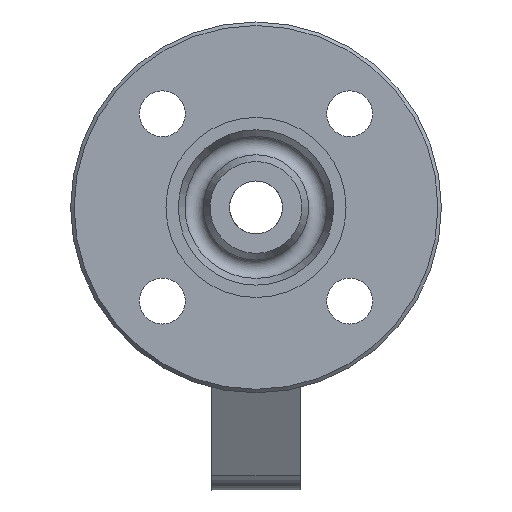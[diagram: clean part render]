
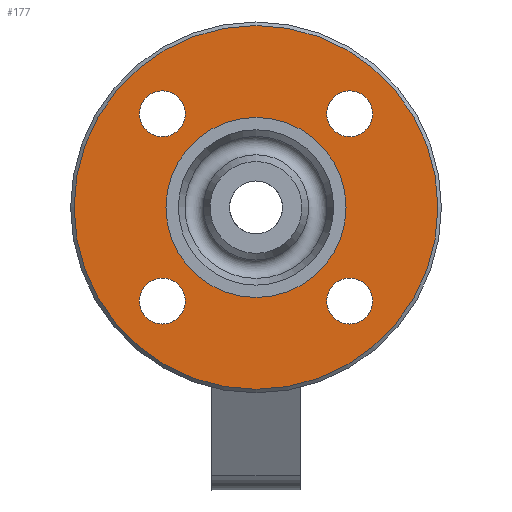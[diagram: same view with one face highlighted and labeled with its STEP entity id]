
A CAD part, left-side view. The second image highlights one B-rep face of the part: STEP entity #177.
In plain terms, the highlighted planar face has unit normal (-1, 0, 0).
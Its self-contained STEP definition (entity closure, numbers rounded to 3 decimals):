
#177=ADVANCED_FACE('',(#1434,#1436,#1438,#1440,#1442,#1444),#1446,.T.);
#1434=FACE_BOUND('',#1435,.T.);
#1435=EDGE_LOOP('',(#2306));
#1436=FACE_BOUND('',#1437,.T.);
#1437=EDGE_LOOP('',(#2307));
#1438=FACE_BOUND('',#1439,.T.);
#1439=EDGE_LOOP('',(#2308));
#1440=FACE_BOUND('',#1441,.T.);
#1441=EDGE_LOOP('',(#2309));
#1442=FACE_BOUND('',#1443,.T.);
#1443=EDGE_LOOP('',(#2310));
#1444=FACE_OUTER_BOUND('',#1445,.T.);
#1445=EDGE_LOOP('',(#2311));
#1446=PLANE('',#1447);
#1447=AXIS2_PLACEMENT_3D('',#1448,#1449,#1450);
#1448=CARTESIAN_POINT('',(-62.,0.,0.));
#1449=DIRECTION('',(-1.,0.,0.));
#1450=DIRECTION('',(0.,1.,0.));
#2306=ORIENTED_EDGE('',*,*,#3244,.T.);
#2307=ORIENTED_EDGE('',*,*,#3243,.T.);
#2308=ORIENTED_EDGE('',*,*,#3241,.T.);
#2309=ORIENTED_EDGE('',*,*,#3239,.T.);
#2310=ORIENTED_EDGE('',*,*,#3261,.T.);
#2311=ORIENTED_EDGE('',*,*,#3262,.F.);
#3239=EDGE_CURVE('',#3612,#3612,#3614,.F.);
#3241=EDGE_CURVE('',#3615,#3615,#3617,.F.);
#3243=EDGE_CURVE('',#3618,#3618,#3620,.F.);
#3244=EDGE_CURVE('',#3621,#3621,#3622,.F.);
#3261=EDGE_CURVE('',#3652,#3652,#3653,.T.);
#3262=EDGE_CURVE('',#3654,#3654,#3655,.T.);
#3612=VERTEX_POINT('',#5528);
#3614=CIRCLE('',#5532,6.5);
#3615=VERTEX_POINT('',#5536);
#3617=CIRCLE('',#5540,6.5);
#3618=VERTEX_POINT('',#5544);
#3620=CIRCLE('',#5548,6.5);
#3621=VERTEX_POINT('',#5552);
#3622=CIRCLE('',#5553,6.5);
#3652=VERTEX_POINT('',#5624);
#3653=CIRCLE('',#5625,25.5);
#3654=VERTEX_POINT('',#5629);
#3655=CIRCLE('',#5630,51.5);
#5528=CARTESIAN_POINT('',(-62.,33.017,-26.517));
#5532=AXIS2_PLACEMENT_3D('',#5533,#5534,#5535);
#5533=CARTESIAN_POINT('',(-62.,26.517,-26.517));
#5534=DIRECTION('',(-1.,0.,0.));
#5535=DIRECTION('',(0.,1.,0.));
#5536=CARTESIAN_POINT('',(-62.,26.517,33.017));
#5540=AXIS2_PLACEMENT_3D('',#5541,#5542,#5543);
#5541=CARTESIAN_POINT('',(-62.,26.517,26.517));
#5542=DIRECTION('',(-1.,0.,0.));
#5543=DIRECTION('',(0.,0.,1.));
#5544=CARTESIAN_POINT('',(-62.,-33.017,26.517));
#5548=AXIS2_PLACEMENT_3D('',#5549,#5550,#5551);
#5549=CARTESIAN_POINT('',(-62.,-26.517,26.517));
#5550=DIRECTION('',(-1.,0.,0.));
#5551=DIRECTION('',(0.,-1.,0.));
#5552=CARTESIAN_POINT('',(-62.,-26.517,-33.017));
#5553=AXIS2_PLACEMENT_3D('',#5554,#5555,#5556);
#5554=CARTESIAN_POINT('',(-62.,-26.517,-26.517));
#5555=DIRECTION('',(-1.,0.,0.));
#5556=DIRECTION('',(0.,0.,-1.));
#5624=CARTESIAN_POINT('',(-62.,25.5,0.));
#5625=AXIS2_PLACEMENT_3D('',#5626,#5627,#5628);
#5626=CARTESIAN_POINT('',(-62.,0.,0.));
#5627=DIRECTION('',(1.,0.,0.));
#5628=DIRECTION('',(0.,1.,0.));
#5629=CARTESIAN_POINT('',(-62.,51.5,0.));
#5630=AXIS2_PLACEMENT_3D('',#5631,#5632,#5633);
#5631=CARTESIAN_POINT('',(-62.,0.,0.));
#5632=DIRECTION('',(1.,0.,0.));
#5633=DIRECTION('',(0.,1.,0.));
